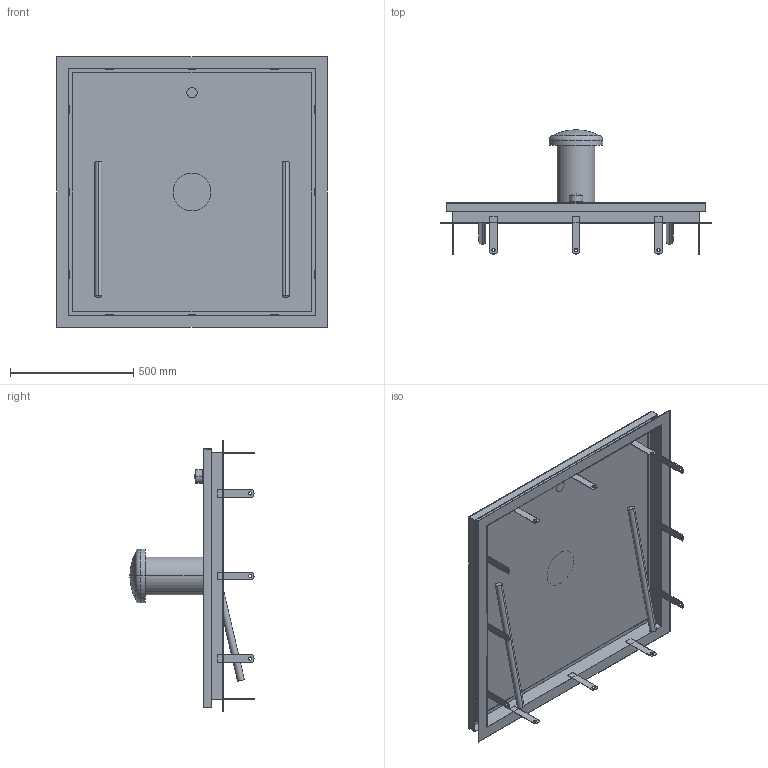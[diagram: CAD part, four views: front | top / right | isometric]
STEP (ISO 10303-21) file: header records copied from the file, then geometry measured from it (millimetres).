
FILE_DESCRIPTION((''),'2;1');
FILE_NAME('51504157','2020-06-24T15:15:33',('hrl'),('HUBER SE'),'CREO PARAMETRIC BY PTC INC, 2019224','CREO PARAMETRIC BY PTC INC, 2019224','');
FILE_SCHEMA(('AUTOMOTIVE_DESIGN { 1 0 10303 214 1 1 1 1 }'));
Length unit declared in the file: millimetre
Products named in the file (1): 51504157
Bounding box: 1100 x 504 x 1100 mm (x, y, z)
Volume: 10564056.3 mm3; surface area: 3921037.7 mm2
Topology: 4 solids, 4 shells, 151 faces, 384 edges, 244 vertices
Faces by surface type: plane 97, cylinder 48, sphere 2, torus 2, bspline 2
Entity records: 5141 total; most frequent: CARTESIAN_POINT 831, DIRECTION 782, ORIENTED_EDGE 760, EDGE_CURVE 380, VECTOR 276, LINE 276, AXIS2_PLACEMENT_3D 253, VERTEX_POINT 244
